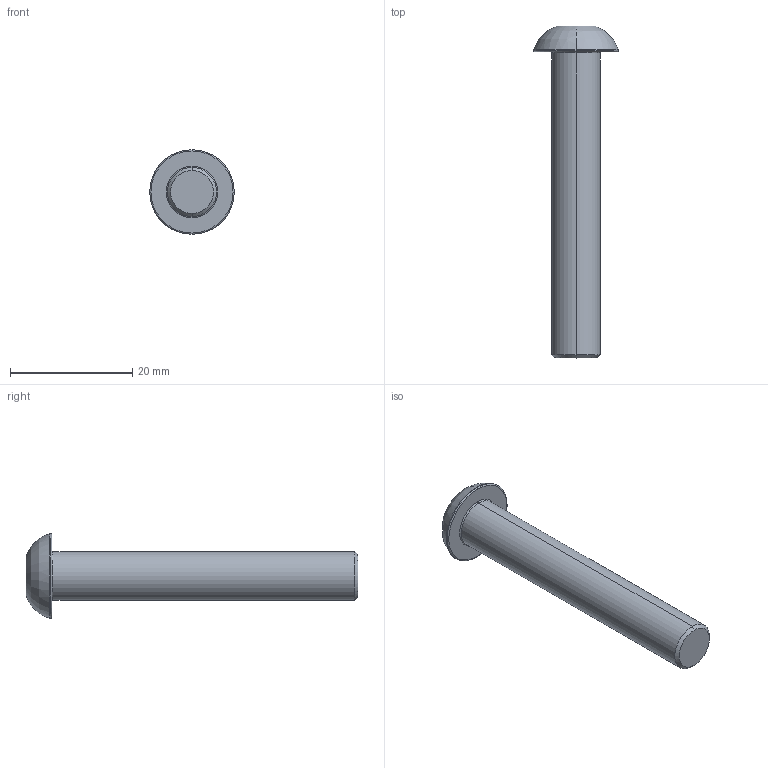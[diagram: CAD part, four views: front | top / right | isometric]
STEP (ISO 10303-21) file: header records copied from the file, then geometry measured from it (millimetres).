
FILE_DESCRIPTION (( 'STEP AP203' ), '1' );
FILE_NAME ('LGDD-304-M8x50.STEP', '2026-08-08T05:06:06', ( '' ), ( '' ), 'SwSTEP 2.0', 'SolidWorks 2020', '' );
FILE_SCHEMA (( 'CONFIG_CONTROL_DESIGN' ));
Length unit declared in the file: millimetre
Products named in the file (1): LGDD-304-M8x50
Bounding box: 13.8 x 54.2 x 13.8 mm (x, y, z)
Volume: 2886.9 mm3; surface area: 1686.6 mm2
Topology: 1 solids, 1 shells, 31 faces, 59 edges, 32 vertices
Faces by surface type: plane 10, cone 9, torus 8, cylinder 4
Entity records: 860 total; most frequent: CARTESIAN_POINT 150, DIRECTION 149, ORIENTED_EDGE 118, AXIS2_PLACEMENT_3D 65, EDGE_CURVE 59, EDGE_LOOP 33, CIRCLE 33, VERTEX_POINT 32
